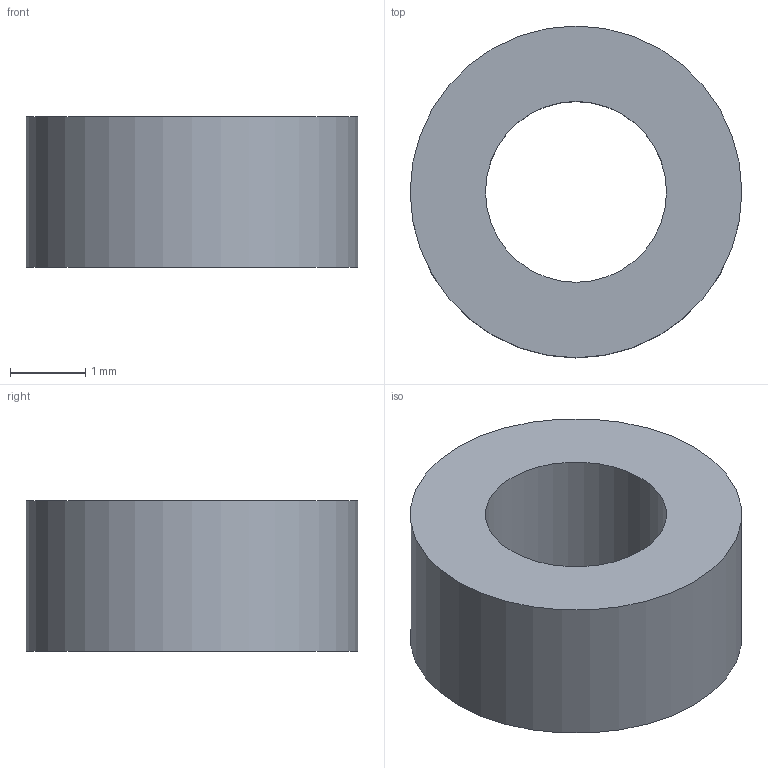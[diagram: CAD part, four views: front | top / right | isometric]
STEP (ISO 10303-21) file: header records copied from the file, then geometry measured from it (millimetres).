
FILE_DESCRIPTION(('Open CASCADE Model'),'2;1');
FILE_NAME('S10-M2_2mm_clamp_spacer.step', '', ('Noah Wilson'), (''), '', '', '');
FILE_SCHEMA(('AUTOMOTIVE_DESIGN { 1 0 10303 214 1 1 1 1 }'));
Length unit declared in the file: millimetre
Products named in the file (1): COMPOUND
Bounding box: 4.4 x 4.4 x 2 mm (x, y, z)
Volume: 21.4 mm3; surface area: 64.1 mm2
Topology: 1 solids, 1 shells, 4 faces, 6 edges, 4 vertices
Faces by surface type: cylinder 2, plane 2
Full cylindrical faces by diameter (mm): 2.4 x1, 4.4 x1
Entity records: 186 total; most frequent: DIRECTION 32, CARTESIAN_POINT 27, ORIENTED_EDGE 12, PCURVE 12, DEFINITIONAL_REPRESENTATION 12, LINE 10, VECTOR 10, AXIS2_PLACEMENT_3D 9
